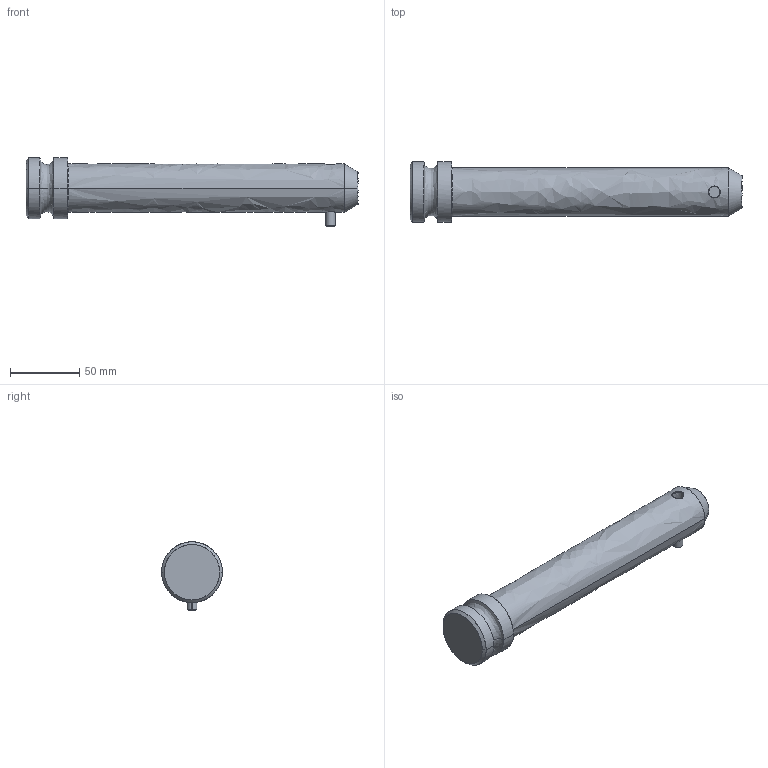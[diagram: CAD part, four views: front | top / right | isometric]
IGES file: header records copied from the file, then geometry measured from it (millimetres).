
Global section: file name: E:\UnigraphicsGraphicData\MISUMI_PRESS-PARTS\IGES\3d_hlfb35_04124_r00.igs; native system: NX V5.0; preprocessor: UGS NX IGES V5.0; author: MISUMI; date: 20110105.161014; units: millimetre
Bounding box: 240 x 44 x 49.5 mm (x, y, z)
Surface area: 31757.5 mm2 (no closed solid volume)
Topology: 0 solids, 0 shells, 50 faces, 308 edges, 308 vertices
Faces by surface type: bspline 50
